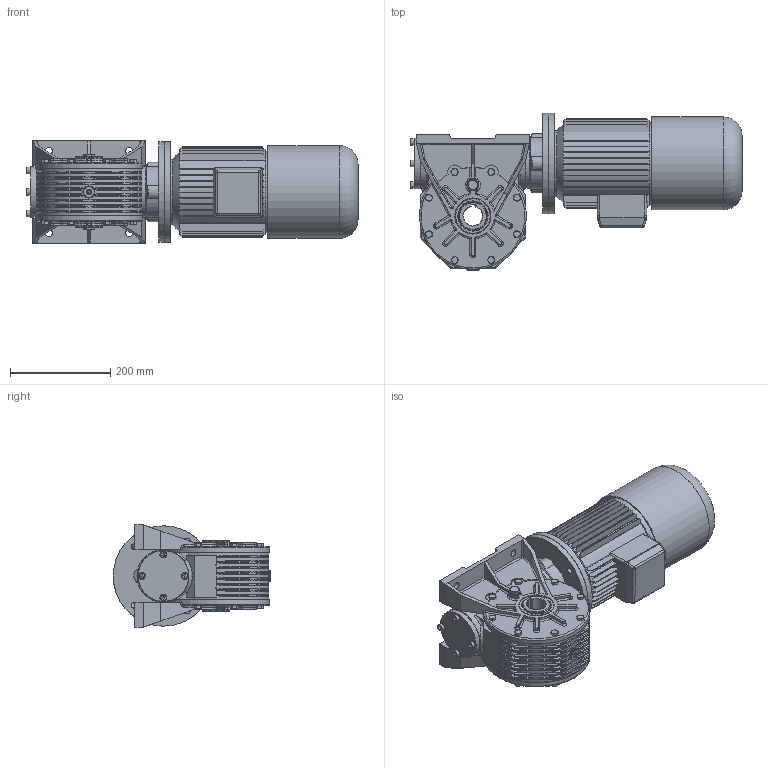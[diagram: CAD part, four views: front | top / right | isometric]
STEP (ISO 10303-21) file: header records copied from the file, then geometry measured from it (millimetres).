
FILE_DESCRIPTION((''),'2;1');
FILE_NAME('Y:\Archivi Inventor\Prog_01\GRAND_50\complessivi\Figurini\MRV50 sito\90l_autofrenante\mrv50_P1_90L_B5.stp','2013-02-06T15:34:22',('tech3'),(''),'Autodesk Inventor 2013','Autodesk Inventor 2013','');
FILE_SCHEMA(('AUTOMOTIVE_DESIGN { 1 0 10303 214 1 1 1 1 }'));
Length unit declared in the file: millimetre
Products named in the file (18): mrv50_80_90l_90s_b5; mrv50_fig; Figurino_carcassa_MRV50; 0105028; 0105029; figurino_corona_MRV50; figurino_0105010; Guarnizione 3_8 GAS; Tappo 3_8 GAS_esagn_incsst; Tappo3_8 GAS; figurino_0105009; ISO 4017 M8 x 20; 55_70_8; UNI 6592 8.4 x 14; UNI 5931  M 8 x  25; 0105006; ISO 4762 M8 x 20; motori B5 brake 90L
Assembly tree (50 placements, depth 3):
  mrv50_80_90l_90s_b5
    mrv50_fig
      Figurino_carcassa_MRV50
      0105028  x2
      0105029  x2
      figurino_corona_MRV50
      figurino_0105010  x2
      Guarnizione 3_8 GAS  x4
      Tappo 3_8 GAS_esagn_incsst  x2
      Tappo3_8 GAS  x2
      figurino_0105009
      ISO 4017 M8 x 20  x16
      55_70_8  x2
      UNI 6592 8.4 x 14  x4
      UNI 5931  M 8 x  25  x4
    0105006
    ISO 4762 M8 x 20  x4
    motori B5 brake 90L
Bounding box: 661.8 x 314 x 203.7 mm (x, y, z)
Volume: 11514132 mm3; surface area: 1436758.2 mm2
Topology: 62 solids, 64 shells, 2233 faces, 5300 edges, 3114 vertices
Faces by surface type: plane 935, cylinder 676, cone 215, torus 175, bspline 162, sphere 70
Full cylindrical faces by diameter (mm): 2 x2, 5 x1, 6.647 x24, 8 x26, 8.4 x4, 8.5 x48, 11.5 x4, 11.63 x16, 12 x4, 13 x12, 13.046 x2, 14 x8, 14.95 x4, 16.3 x4, 16.5 x2, 22 x8, 24 x3, 55 x1, 60 x1, 66.4 x2, 69 x2, 70 x5, 72 x4, 73 x2, 75 x1, 99.5 x2, 100 x1, 101 x1, 102 x2, 124 x1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
Entity records: 52796 total; most frequent: CARTESIAN_POINT 17102, DIRECTION 7463, ORIENTED_EDGE 6814, EDGE_CURVE 3407, AXIS2_PLACEMENT_3D 2949, VERTEX_POINT 2166, EDGE_LOOP 1911, VECTOR 1565
